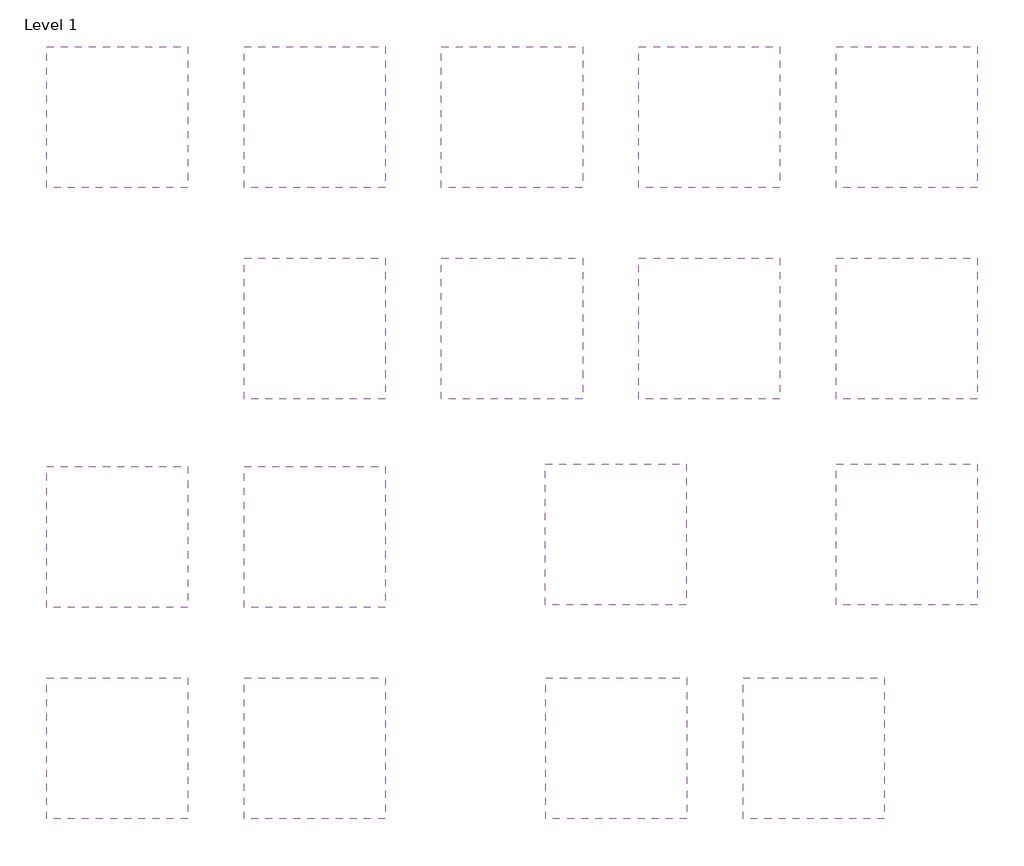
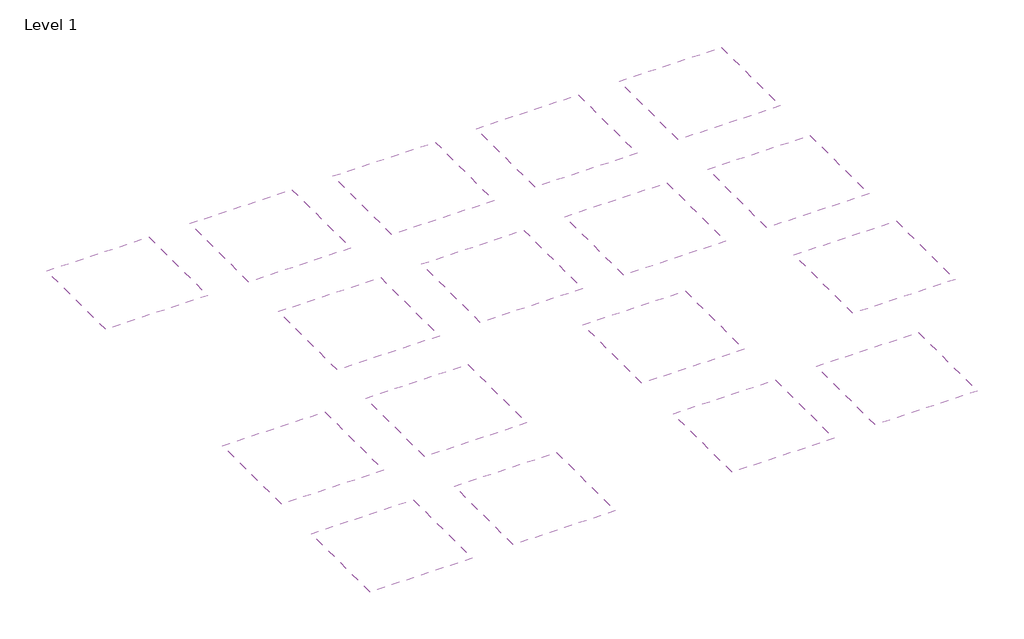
# One storey: 17 coverings.
"""IFC4 building model written with IfcOpenShell, lengths in millimetres."""

from ifc_helpers import new_model, si_unit, frame, origin, place, context, project, spatial, polyline, outline, extrude, element, save

model = new_model("IFC4")

# Units and contexts
model_context = context("Model", 3, world=origin())
ifc_project = project(units=[si_unit("LENGTHUNIT", "METRE", prefix="MILLI")], contexts=[model_context])

# Site, building, storey
site = spatial("IfcSite", under=ifc_project)
building = spatial("IfcBuilding", under=site)
storey = spatial("IfcBuildingStorey", under=building, Name="Level 1", Elevation=0.0)

# Coverings
placement = place(None, origin())
element("IfcCovering", 1, ObjectType="C Max Absorb-600x600mm", at=placement, inside=storey, context=model_context, shape_type="SweptSolid", body=[
    extrude(outline(polyline([(-10300.0, 15200.0), (-15300.0, 15200.0), (-15300.0, 20200.0), (-10300.0, 20200.0), (-10300.0, 15200.0)])), frame((0.0, 0.0, 2600.0), z_axis=(0.0, 0.0, 1.0), x_axis=(1.0, 0.0, 0.0)), (0.0, 0.0, 1.0), 38.0),
])
element("IfcCovering", 2, ObjectType="C Max Absorb-1200x300mm", at=placement, inside=storey, context=model_context, shape_type="SweptSolid", body=[
    extrude(outline(polyline([(-3300.0, 15200.0), (-8300.0, 15200.0), (-8300.0, 20200.0), (-3300.0, 20200.0), (-3300.0, 15200.0)])), frame((0.0, 0.0, 2600.0), z_axis=(0.0, 0.0, 1.0), x_axis=(1.0, 0.0, 0.0)), (0.0, 0.0, 1.0), 38.0),
])
element("IfcCovering", 3, ObjectType="C Max Absorb-1200x600mm", at=placement, inside=storey, context=model_context, shape_type="SweptSolid", body=[
    extrude(outline(polyline([(3700.0, 15200.0), (-1300.0, 15200.0), (-1300.0, 20200.0), (3700.0, 20200.0), (3700.0, 15200.0)])), frame((0.0, 0.0, 2600.0), z_axis=(0.0, 0.0, 1.0), x_axis=(1.0, 0.0, 0.0)), (0.0, 0.0, 1.0), 38.0),
])
element("IfcCovering", 4, ObjectType="C Max Absorb-1500x300mm", at=placement, inside=storey, context=model_context, shape_type="SweptSolid", body=[
    extrude(outline(polyline([(10700.0, 15200.0), (5700.0, 15200.0), (5700.0, 20200.0), (10700.0, 20200.0), (10700.0, 15200.0)])), frame((0.0, 0.0, 2600.0), z_axis=(0.0, 0.0, 1.0), x_axis=(1.0, 0.0, 0.0)), (0.0, 0.0, 1.0), 38.0),
])
element("IfcCovering", 5, ObjectType="C Max Absorb-2400x600mm", at=placement, inside=storey, context=model_context, shape_type="SweptSolid", body=[
    extrude(outline(polyline([(17700.0, 15200.0), (12700.0, 15200.0), (12700.0, 20200.0), (17700.0, 20200.0), (17700.0, 15200.0)])), frame((0.0, 0.0, 2600.0), z_axis=(0.0, 0.0, 1.0), x_axis=(1.0, 0.0, 0.0)), (0.0, 0.0, 1.0), 38.0),
])
element("IfcCovering", 6, ObjectType="C Max Combo+ 1200x300mm", at=placement, inside=storey, context=model_context, shape_type="SweptSolid", body=[
    extrude(outline(polyline([(-3300.0, 7700.0), (-8300.0, 7700.0), (-8300.0, 12700.0), (-3300.0, 12700.0), (-3300.0, 7700.0)])), frame((0.0, 0.0, 2600.0), z_axis=(0.0, 0.0, 1.0), x_axis=(1.0, 0.0, 0.0)), (0.0, 0.0, 1.0), 38.0),
])
element("IfcCovering", 7, ObjectType="C Max Combo+ 1200x600mm", at=placement, inside=storey, context=model_context, shape_type="SweptSolid", body=[
    extrude(outline(polyline([(3700.0, 7700.0), (-1300.0, 7700.0), (-1300.0, 12700.0), (3700.0, 12700.0), (3700.0, 7700.0)])), frame((0.0, 0.0, 2600.0), z_axis=(0.0, 0.0, 1.0), x_axis=(1.0, 0.0, 0.0)), (0.0, 0.0, 1.0), 38.0),
])
element("IfcCovering", 8, ObjectType="C Max Combo+ 1500x300mm", at=placement, inside=storey, context=model_context, shape_type="SweptSolid", body=[
    extrude(outline(polyline([(10700.0, 7700.0), (5700.0, 7700.0), (5700.0, 12700.0), (10700.0, 12700.0), (10700.0, 7700.0)])), frame((0.0, 0.0, 2600.0), z_axis=(0.0, 0.0, 1.0), x_axis=(1.0, 0.0, 0.0)), (0.0, 0.0, 1.0), 38.0),
])
element("IfcCovering", 9, ObjectType="C Max Combo+ 2400x600mm", at=placement, inside=storey, context=model_context, shape_type="SweptSolid", body=[
    extrude(outline(polyline([(17700.0, 7700.0), (12700.0, 7700.0), (12700.0, 12700.0), (17700.0, 12700.0), (17700.0, 7700.0)])), frame((0.0, 0.0, 2600.0), z_axis=(0.0, 0.0, 1.0), x_axis=(1.0, 0.0, 0.0)), (0.0, 0.0, 1.0), 38.0),
])
element("IfcCovering", 10, ObjectType="C Max Impact 1200x600mm", at=placement, inside=storey, context=model_context, shape_type="SweptSolid", body=[
    extrude(outline(polyline([(17700.0, 400.0), (12700.0, 400.0), (12700.0, 5400.0), (17700.0, 5400.0), (17700.0, 400.0)])), frame((0.0, 0.0, 2600.0), z_axis=(0.0, 0.0, 1.0), x_axis=(1.0, 0.0, 0.0)), (0.0, 0.0, 1.0), 40.0),
])
element("IfcCovering", 11, ObjectType="C Max Reflect 1200x600mm", at=placement, inside=storey, context=model_context, shape_type="SweptSolid", body=[
    extrude(outline(polyline([(-3300.0, 300.0), (-8300.0, 300.0), (-8300.0, 5300.0), (-3300.0, 5300.0), (-3300.0, 300.0)])), frame((0.0, 0.0, 2600.0), z_axis=(0.0, 0.0, 1.0), x_axis=(1.0, 0.0, 0.0)), (0.0, 0.0, 1.0), 38.0),
])
element("IfcCovering", 12, ObjectType="C Max Reflect 600x600mm", at=placement, inside=storey, context=model_context, shape_type="SweptSolid", body=[
    extrude(outline(polyline([(-10300.0, 300.0), (-15300.0, 300.0), (-15300.0, 5300.0), (-10300.0, 5300.0), (-10300.0, 300.0)])), frame((0.0, 0.0, 2600.0), z_axis=(0.0, 0.0, 1.0), x_axis=(1.0, 0.0, 0.0)), (0.0, 0.0, 1.0), 38.0),
])
element("IfcCovering", 13, ObjectType="C Max Tech 1200x600", at=placement, inside=storey, context=model_context, shape_type="SweptSolid", body=[
    extrude(outline(polyline([(7380.0, 400.0), (2380.0, 400.0), (2380.0, 5400.0), (7380.0, 5400.0), (7380.0, 400.0)])), frame((0.0, 0.0, 2600.0), z_axis=(0.0, 0.0, 1.0), x_axis=(1.0, 0.0, 0.0)), (0.0, 0.0, 1.0), 38.0),
])
element("IfcCovering", 14, ObjectType="Ceiling_C Max Direct Fix 1200x600mm", at=placement, inside=storey, context=model_context, shape_type="SweptSolid", body=[
    extrude(outline(polyline([(-3300.0, -7200.0), (-8300.0, -7200.0), (-8300.0, -2200.0), (-3300.0, -2200.0), (-3300.0, -7200.0)])), frame((0.0, 0.0, 2600.0), z_axis=(0.0, 0.0, 1.0), x_axis=(1.0, 0.0, 0.0)), (0.0, 0.0, 1.0), 20.0),
])
element("IfcCovering", 15, ObjectType="Ceiling_C Max Direct Fix 1200x600mm on 35mm Battens", at=placement, inside=storey, context=model_context, shape_type="SweptSolid", body=[
    extrude(outline(polyline([(14400.0, -7200.0), (9400.0, -7200.0), (9400.0, -2200.0), (14400.0, -2200.0), (14400.0, -7200.0)])), frame((0.0, 0.0, 2600.0), z_axis=(0.0, 0.0, 1.0), x_axis=(1.0, 0.0, 0.0)), (0.0, 0.0, 1.0), 55.0),
])
element("IfcCovering", 16, ObjectType="Ceiling_C Max Direct Fix 600x600mm", at=placement, inside=storey, context=model_context, shape_type="SweptSolid", body=[
    extrude(outline(polyline([(-10300.0, -7200.0), (-15300.0, -7200.0), (-15300.0, -2200.0), (-10300.0, -2200.0), (-10300.0, -7200.0)])), frame((0.0, 0.0, 2600.0), z_axis=(0.0, 0.0, 1.0), x_axis=(1.0, 0.0, 0.0)), (0.0, 0.0, 1.0), 20.0),
])
element("IfcCovering", 17, ObjectType="Ceiling_C Max Direct Fix 600x600mm on 35mm Battens", at=placement, inside=storey, context=model_context, shape_type="SweptSolid", body=[
    extrude(outline(polyline([(7400.0, -7200.0), (2400.0, -7200.0), (2400.0, -2200.0), (7400.0, -2200.0), (7400.0, -7200.0)])), frame((0.0, 0.0, 2600.0), z_axis=(0.0, 0.0, 1.0), x_axis=(1.0, 0.0, 0.0)), (0.0, 0.0, 1.0), 55.0),
])

save(model, "model.ifc")
